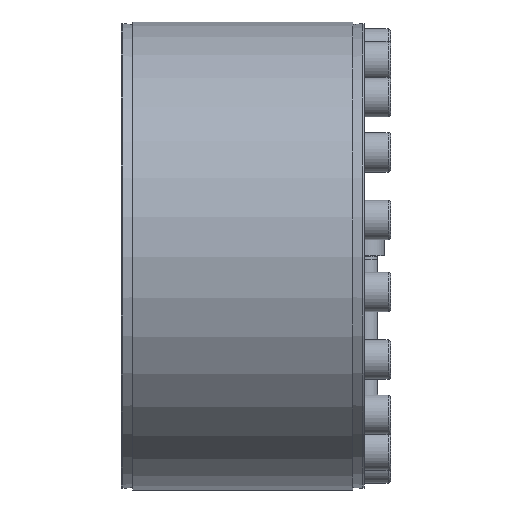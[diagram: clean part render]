
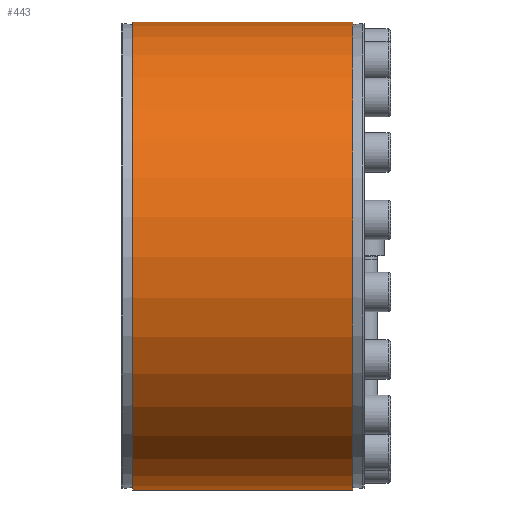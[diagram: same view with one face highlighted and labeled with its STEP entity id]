
A CAD part, left-side view. The second image highlights one B-rep face of the part: STEP entity #443.
In plain terms, the highlighted cylindrical face has radius 142.5 mm (diameter 285 mm), a partial arc.
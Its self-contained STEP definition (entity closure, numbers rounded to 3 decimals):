
#443 = ADVANCED_FACE( '', ( #732 ), #733, .T. );
#732 = FACE_OUTER_BOUND( '', #1102, .T. );
#733 = CYLINDRICAL_SURFACE( '', #1103, 142.5 );
#1102 = EDGE_LOOP( '', ( #1541, #1542, #1543, #1544 ) );
#1103 = AXIS2_PLACEMENT_3D( '', #1545, #1546, #1547 );
#1541 = ORIENTED_EDGE( '', *, *, #2219, .F. );
#1542 = ORIENTED_EDGE( '', *, *, #2220, .T. );
#1543 = ORIENTED_EDGE( '', *, *, #2164, .F. );
#1544 = ORIENTED_EDGE( '', *, *, #2221, .F. );
#1545 = CARTESIAN_POINT( '', ( 0., -60., 0. ) );
#1546 = DIRECTION( '', ( 0., 1., 0. ) );
#1547 = DIRECTION( '', ( 0., 0., -1. ) );
#2164 = EDGE_CURVE( '', #2401, #2403, #2404, .F. );
#2219 = EDGE_CURVE( '', #2507, #2508, #2509, .T. );
#2220 = EDGE_CURVE( '', #2507, #2403, #2510, .T. );
#2221 = EDGE_CURVE( '', #2508, #2401, #2511, .T. );
#2401 = VERTEX_POINT( '', #2721 );
#2403 = VERTEX_POINT( '', #2724 );
#2404 = LINE( '', #2725, #2726 );
#2507 = VERTEX_POINT( '', #2846 );
#2508 = VERTEX_POINT( '', #2847 );
#2509 = LINE( '', #2848, #2849 );
#2510 = CIRCLE( '', #2850, 142.5 );
#2511 = CIRCLE( '', #2851, 142.5 );
#2721 = CARTESIAN_POINT( '', ( 26.712, 7., 139.974 ) );
#2724 = CARTESIAN_POINT( '', ( 26.712, 141., 139.974 ) );
#2725 = CARTESIAN_POINT( '', ( 26.712, -60., 139.974 ) );
#2726 = VECTOR( '', #3058, 1000. );
#2846 = CARTESIAN_POINT( '', ( 22.773, 141., 140.669 ) );
#2847 = CARTESIAN_POINT( '', ( 22.773, 7., 140.669 ) );
#2848 = CARTESIAN_POINT( '', ( 22.773, -60., 140.669 ) );
#2849 = VECTOR( '', #3193, 1000. );
#2850 = AXIS2_PLACEMENT_3D( '', #3194, #3195, #3196 );
#2851 = AXIS2_PLACEMENT_3D( '', #3197, #3198, #3199 );
#3058 = DIRECTION( '', ( 0., -1., 0. ) );
#3193 = DIRECTION( '', ( 0., -1., 0. ) );
#3194 = CARTESIAN_POINT( '', ( 0., 141., 0. ) );
#3195 = DIRECTION( '', ( 0., -1., 0. ) );
#3196 = DIRECTION( '', ( 0., 0., -1. ) );
#3197 = CARTESIAN_POINT( '', ( 0., 7., 0. ) );
#3198 = DIRECTION( '', ( 0., -1., 0. ) );
#3199 = DIRECTION( '', ( 0., 0., -1. ) );
